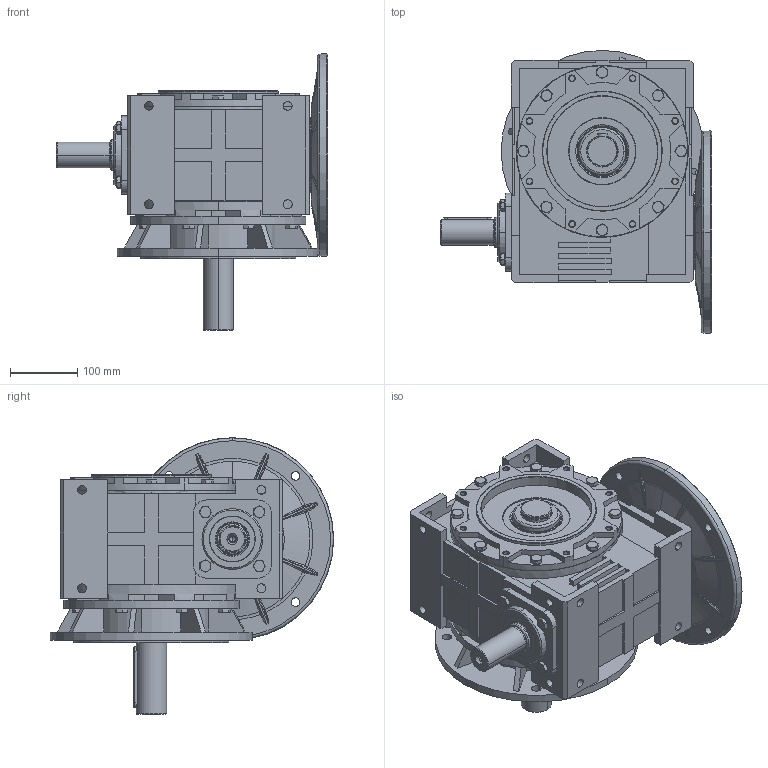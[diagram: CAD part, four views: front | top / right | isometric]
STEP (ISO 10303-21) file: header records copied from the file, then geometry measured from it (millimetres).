
FILE_DESCRIPTION (( 'STEP AP203' ), '1' );
FILE_NAME ('MR-120_300-38-WBS-K300_1-WJ_1_3D.STEP', '2023-11-23T08:45:16', ( '' ), ( '' ), 'SwSTEP 2.0', 'SolidWorks 2022', '' );
FILE_SCHEMA (( 'CONFIG_CONTROL_DESIGN' ));
Length unit declared in the file: millimetre
Products named in the file (1): MR-120_300-38-WBS-K300_1-WJ_1_3D
Bounding box: 402 x 420.35 x 410.35 mm (x, y, z)
Volume: 15417930.8 mm3; surface area: 1073236.2 mm2
Topology: 1 solids, 52 shells, 2189 faces, 5196 edges, 3161 vertices
Faces by surface type: plane 863, cylinder 616, cone 315, torus 203, bspline 144, sphere 48
Entity records: 70134 total; most frequent: CARTESIAN_POINT 19551, DIRECTION 11045, ORIENTED_EDGE 10316, EDGE_CURVE 5158, AXIS2_PLACEMENT_3D 4411, VERTEX_POINT 3161, EDGE_LOOP 2387, CIRCLE 2365
